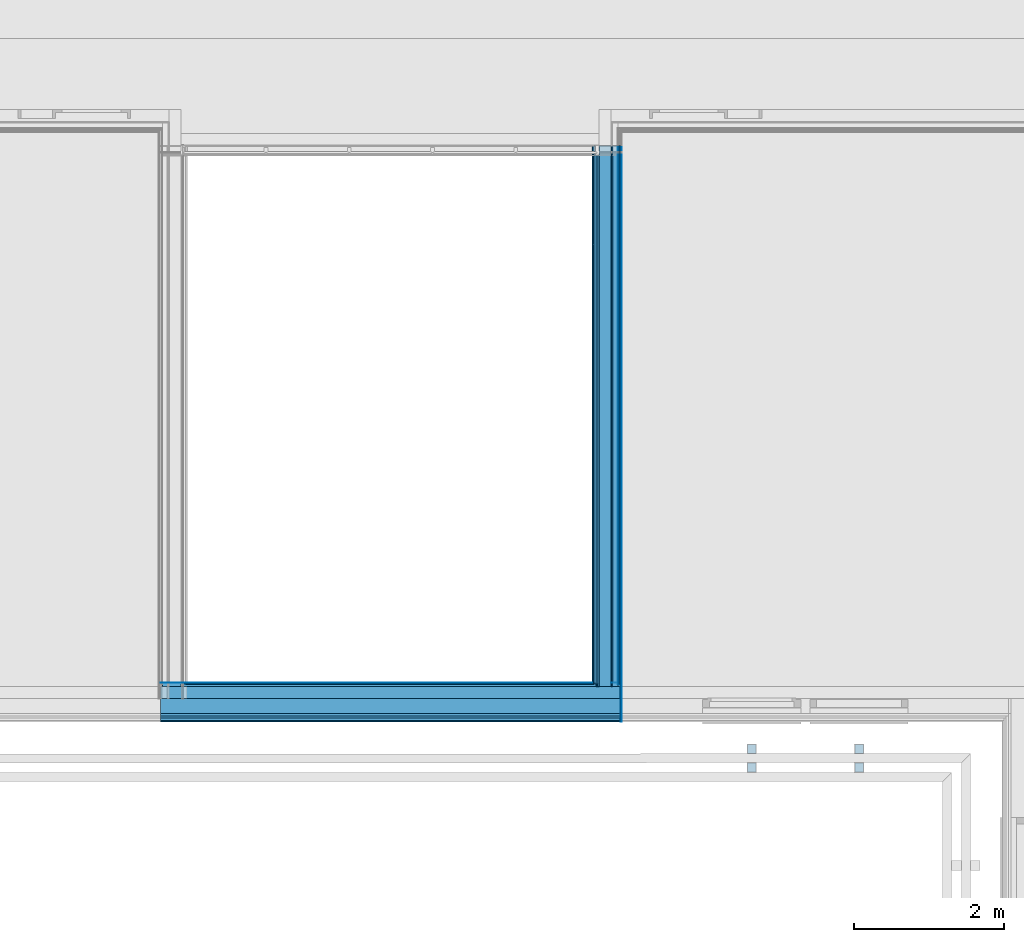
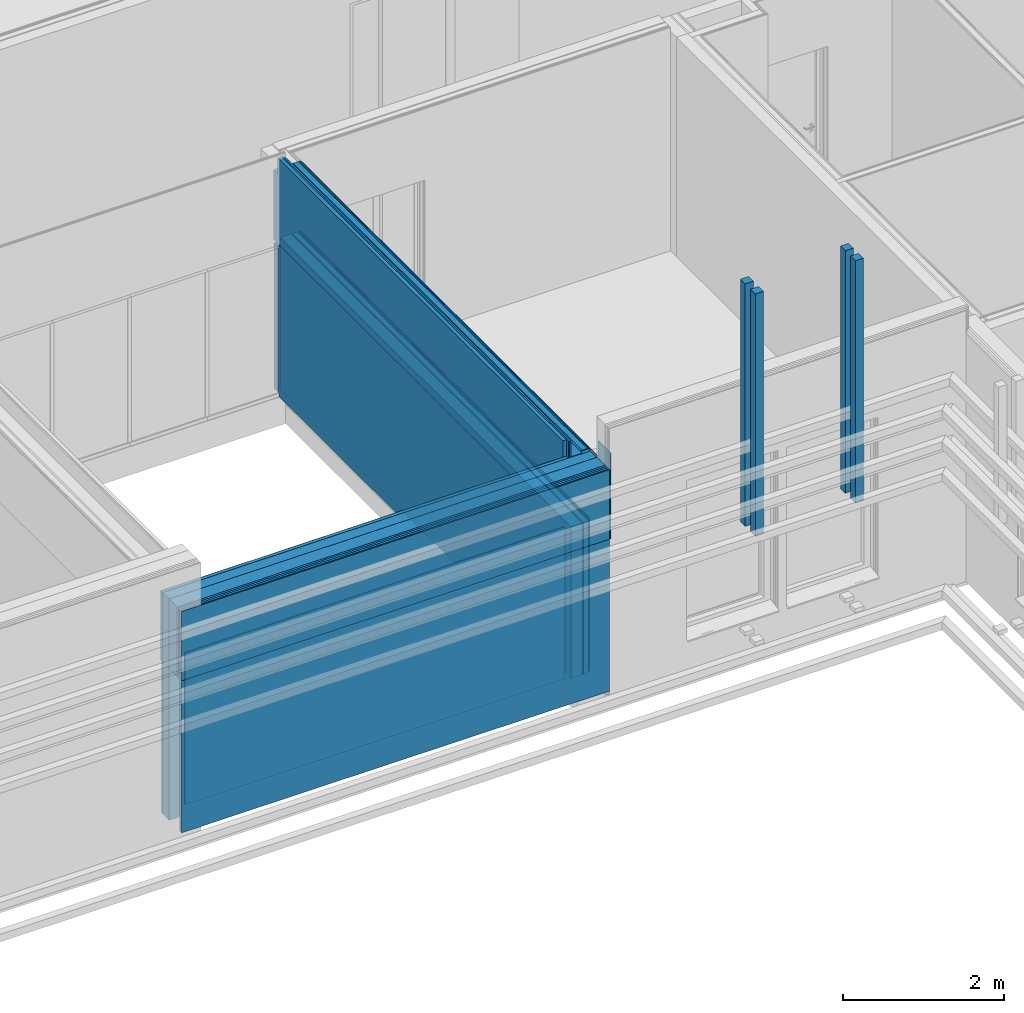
# One storey, part 84 of 139: 31 building element parts, 2 discrete accessories, 4 elements without a shape of their own.
"""IFC2X3 building model written with IfcOpenShell, lengths in millimetres."""

from ifc_helpers import new_model, entity, si_unit, converted_unit, derived_unit, money_unit, direction, frame, origin_with_axes, place, context, subcontext, project, spatial, faceted_brep, material, material_list, type_object, element, aggregate, save


model = new_model("IFC2X3")

# Units and contexts
model_context = context("Model", 3, precision=0.01, world=origin_with_axes(), true_north=direction((0.0, 1.0)))
body_context = subcontext(model_context, "Body", "Model", "MODEL_VIEW")
ifc_project = project(units=[si_unit("LENGTHUNIT", "METRE", prefix="MILLI"), si_unit("AREAUNIT", "SQUARE_METRE"), si_unit("VOLUMEUNIT", "CUBIC_METRE"), converted_unit("PLANEANGLEUNIT", "DEGREE", entity("IfcPlaneAngleMeasure", 0.0174532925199), si_unit("PLANEANGLEUNIT", "RADIAN"), dimensions=[0, 0, 0, 0, 0, 0, 0]), money_unit("EUR"), converted_unit("TIMEUNIT", "Year", entity("IfcTimeMeasure", 31556926.0), si_unit("TIMEUNIT", "SECOND"), dimensions=[0, 0, 1, 0, 0, 0, 0]), si_unit("MASSUNIT", "GRAM", prefix="KILO"), si_unit("THERMODYNAMICTEMPERATUREUNIT", "DEGREE_CELSIUS"), si_unit("LUMINOUSINTENSITYUNIT", "LUMEN"), si_unit("ENERGYUNIT", "JOULE", prefix="MEGA"), derived_unit("THERMALCONDUCTANCEUNIT", [(si_unit("POWERUNIT", "WATT"), 1), (si_unit("LENGTHUNIT", "METRE"), -1), (si_unit("THERMODYNAMICTEMPERATUREUNIT", "KELVIN"), -1)]), derived_unit("SPECIFICHEATCAPACITYUNIT", [(si_unit("ENERGYUNIT", "JOULE"), 1), (si_unit("MASSUNIT", "GRAM", prefix="KILO"), -1), (si_unit("THERMODYNAMICTEMPERATUREUNIT", "KELVIN"), -1)]), derived_unit("MASSDENSITYUNIT", [(si_unit("MASSUNIT", "GRAM", prefix="KILO"), 1), (si_unit("VOLUMEUNIT", "CUBIC_METRE"), -1)])], contexts=[model_context])

# Site, building, storey
site_placement = place(None, origin_with_axes())
site = spatial("IfcSite", under=ifc_project, at=site_placement, Name="Kolde pst 67a", CompositionType="ELEMENT")
building_placement = place(site_placement, origin_with_axes())
building = spatial("IfcBuilding", under=site, at=building_placement, Name="Riigigümnaasium", CompositionType="ELEMENT")
storey_placement = place(building_placement, frame((0.0, 0.0, 4600.0), z_axis=(0.0, 0.0, 1.0), x_axis=(1.0, 0.0, 0.0)))
storey = spatial("IfcBuildingStorey", under=building, at=storey_placement, Name="2. korrus", CompositionType="ELEMENT", Elevation=4600.0)

# Discrete accessories
ifc_material_1 = material(Name="_VÄLISVIIMISTLUS - sõrmjätkatud puitprussid 120x115mm, liitekohad vähemärgatavad, Platowood sõrmjätkatud kuusk või samaväärne; eeltöödeldud tuletõkkevõõbaga, tuletundlikkus B-s1, d0, Woodsafe Exterior WFX™ või samaväärne; kinnitused vastavalt EK osale")
ifc_material_list = material_list([ifc_material_1, ifc_material_1])
discrete_accessory_type = type_object("IfcDiscreteAccessoryType", Name="1+paiksekaitse 3 370 x 115")
for number, where, z_axis, x_axis in (
    (1, (20444.9643617, 46713.6768307, 2150.0), (0.0, 0.0, 1.0), (0.0, 1.0, 0.0)),
    (2, (21876.9643617, 46713.6768307, 2150.0), (0.0, 0.0, 1.0), (0.0, 1.0, 0.0)),
):
    element("IfcDiscreteAccessory", number, at=place(storey_placement, frame(where, z_axis=z_axis, x_axis=x_axis)), inside=storey, type_object=discrete_accessory_type, material=ifc_material_list, Name="Päikesevarjestus", context=body_context, shape_type="Brep", body=[
        faceted_brep([(467.0, 117.5, 0.0), (347.0, 117.5, 0.0), (347.0, 117.5, 3670.0), (467.0, 117.5, 3670.0), (467.0, 2.5, 0.0), (347.0, 2.5, 0.0), (347.0, 2.5, 3670.0), (467.0, 2.5, 3670.0)], [[[0, 1, 2, 3]], [[0, 4, 5, 1]], [[1, 5, 6, 2]], [[3, 2, 6, 7]], [[4, 0, 3, 7]], [[5, 4, 7, 6]]]),
        faceted_brep([(717.0, 117.5, 0.0), (597.0, 117.5, 0.0), (597.0, 117.5, 3670.0), (717.0, 117.5, 3670.0), (717.0, 2.5, 0.0), (597.0, 2.5, 0.0), (597.0, 2.5, 3670.0), (717.0, 2.5, 3670.0)], [[[0, 1, 2, 3]], [[0, 4, 5, 1]], [[1, 5, 6, 2]], [[3, 2, 6, 7]], [[4, 0, 3, 7]], [[5, 4, 7, 6]]]),
    ])

# Wall, building element parts
wall_type_1 = type_object("IfcWallType", Name="VS-CLT-16/9_18vineer+karkass 32+CLT160+soojust 200   522", PredefinedType="NOTDEFINED")
wall_1_placement = place(storey_placement, frame((12504.9974942, 48039.9808308, 0.0), z_axis=(0.0, 0.0, 1.0), x_axis=(1.0, 0.0, 0.0)))
wall_1 = element("IfcWall", 3, at=wall_1_placement, inside=storey, type_object=wall_type_1, Name="Välissein")
ifc_material_2 = material(Name="_PLAATMATERJAL - niiskuskindel vineerplaat, kvaliteediklass BB")
building_element_part_1_placement = place(wall_1_placement, origin_with_axes())
building_element_part_1 = element("IfcBuildingElementPart", 4, at=building_element_part_1_placement, material=ifc_material_2, Name="_PLAATMATERJAL - niiskuskindel vineerplaat, kvaliteediklass BB", context=body_context, shape_type="Brep", body=[
    faceted_brep([(5775.00604999, 192.0, 0.0), (335.0, 192.0, 0.0), (335.0, 210.0, 0.0), (5775.00604999, 210.0, 0.0), (5775.00604999, 192.0, 2300.0), (335.0, 192.0, 2300.0), (335.0, 210.0, 2300.0), (5775.00604999, 210.0, 2300.0)], [[[0, 1, 2, 3]], [[4, 5, 1, 0]], [[2, 1, 5, 6]], [[3, 2, 6, 7]], [[3, 7, 4, 0]], [[7, 6, 5, 4]]]),
])
ifc_material_3 = material(Name="_KARKASS - puitroov 32x32mm, s. 600mm")
building_element_part_2_placement = place(wall_1_placement, origin_with_axes())
building_element_part_2 = element("IfcBuildingElementPart", 5, at=building_element_part_2_placement, material=ifc_material_3, Name="_KARKASS - puitroov 32x32mm, s. 600mm", context=body_context, shape_type="Brep", body=[
    faceted_brep([(6120.00604999, 192.0, 0.0), (6120.00604999, 160.0, 0.0), (6095.00604999, 160.0, 0.0), (6095.00604999, 192.0, 0.0), (6120.00604999, 192.0, 2300.0), (6120.00604999, 160.0, 2300.0), (6095.00604999, 160.0, 2300.0), (6095.00604999, 192.0, 2300.0)], [[[0, 1, 2, 3]], [[0, 4, 5, 1]], [[1, 5, 6, 2]], [[3, 2, 6, 7]], [[4, 0, 3, 7]], [[5, 4, 7, 6]]]),
    faceted_brep([(5845.00604999, 160.0, 0.0), (275.0, 160.0, 0.0), (275.0, 192.0, 0.0), (5845.00604999, 192.0, 0.0), (5845.00604999, 160.0, 2300.0), (275.0, 160.0, 2300.0), (275.0, 192.0, 2300.0), (5845.00604999, 192.0, 2300.0)], [[[0, 1, 2, 3]], [[4, 5, 1, 0]], [[2, 1, 5, 6]], [[3, 2, 6, 7]], [[3, 7, 4, 0]], [[7, 6, 5, 4]]]),
    faceted_brep([(25.0, 160.0, 0.0), (0.0, 160.0, 0.0), (0.0, 192.0, 0.0), (25.0, 192.0, 0.0), (25.0, 160.0, 2300.0), (0.0, 160.0, 2300.0), (0.0, 192.0, 2300.0), (25.0, 192.0, 2300.0)], [[[0, 1, 2, 3]], [[4, 5, 1, 0]], [[2, 1, 5, 6]], [[3, 2, 6, 7]], [[3, 7, 4, 0]], [[7, 6, 5, 4]]]),
])
ifc_material_4 = material(Name="_KANDETARIND - CLT ristkihtliimpuit vastavalt EK osale, CLT paigaldusvuugid teibitakse ROTHOBLAAS teibiga")
building_element_part_3_placement = place(wall_1_placement, origin_with_axes())
building_element_part_3 = element("IfcBuildingElementPart", 6, at=building_element_part_3_placement, material=ifc_material_4, Name="_KANDETARIND - CLT ristkihtliimpuit vastavalt EK osale, CLT paigaldusvuugid teibitakse ROTHOBLAAS teibiga", context=body_context, shape_type="Brep", body=[
    faceted_brep([(6120.00604999, 160.0, 0.0), (6120.00604999, 0.0, 0.0), (0.0, 0.0, 0.0), (0.0, 160.0, 0.0), (6120.00604999, 160.0, 2300.0), (6120.00604999, 0.0, 2300.0), (0.0, 0.0, 2300.0), (0.0, 160.0, 2300.0)], [[[0, 1, 2, 3]], [[0, 4, 5, 1]], [[1, 5, 6, 2]], [[3, 2, 6, 7]], [[4, 0, 3, 7]], [[5, 4, 7, 6]]]),
])
ifc_material_5 = material(Name="_KARKASS - puitroov 32x50mm horisontaalne, immutatud Driconi tulekaitsevahendiga või samaväärne, samm 600mm")
building_element_part_4_placement = place(wall_1_placement, origin_with_axes())
building_element_part_4 = element("IfcBuildingElementPart", 7, at=building_element_part_4_placement, material=ifc_material_5, Name="_KARKASS - puitroov 32x50mm horisontaalne, immutatud Driconi tulekaitsevahendiga või samaväärne, samm 600mm", context=body_context, shape_type="Brep", body=[
    faceted_brep([(6120.00604999, -262.0, 0.0), (6120.00604999, -294.0, 0.0), (0.0, -294.0, 0.0), (0.0, -262.0, 0.0), (6120.00604999, -262.0, 2300.0), (6120.00604999, -294.0, 2300.0), (0.0, -294.0, 2300.0), (0.0, -262.0, 2300.0)], [[[0, 1, 2, 3]], [[0, 4, 5, 1]], [[1, 5, 6, 2]], [[3, 2, 6, 7]], [[4, 0, 3, 7]], [[5, 4, 7, 6]]]),
])
ifc_material_6 = material(Name="_VÄLISVIIMISTLUS - vertikaalne voodrilaud, Platowood P01 profiil 18x140mm, kuusk; eeltöödeldud tuletõkkega mõlemad küljed, B-s1, d0, Woodsafe Exterior WFX™ või samaväärne")
building_element_part_5_placement = place(wall_1_placement, origin_with_axes())
building_element_part_5 = element("IfcBuildingElementPart", 8, at=building_element_part_5_placement, material=ifc_material_6, Name="_VÄLISVIIMISTLUS - vertikaalne voodrilaud, Platowood P01 profiil 18x140mm, kuusk; eeltöödeldud tuletõkkega mõlemad küljed, B-s1, d0, Woodsafe Exterior WFX™ või samaväärne", context=body_context, shape_type="Brep", body=[
    faceted_brep([(6120.00604999, -294.0, 0.0), (6120.00604999, -312.0, 0.0), (0.0, -312.0, 0.0), (0.0, -294.0, 0.0), (6120.00604999, -294.0, 2300.0), (6120.00604999, -312.0, 2300.0), (0.0, -312.0, 2300.0), (0.0, -294.0, 2300.0)], [[[0, 1, 2, 3]], [[0, 4, 5, 1]], [[1, 5, 6, 2]], [[3, 2, 6, 7]], [[4, 0, 3, 7]], [[5, 4, 7, 6]]]),
])
aggregate(wall_1, [building_element_part_1, building_element_part_2, building_element_part_3, building_element_part_4, building_element_part_5])

wall_type_2 = type_object("IfcWallType", Name="VS-CLT-16/8_ak. plaat+CLT160+soojust 200  524", PredefinedType="NOTDEFINED")
wall_2_placement = place(storey_placement, frame((12504.9974942, 48039.9808308, 2300.0), z_axis=(0.0, 0.0, 1.0), x_axis=(1.0, 0.0, 0.0)))
wall_2 = element("IfcWall", 9, at=wall_2_placement, inside=storey, type_object=wall_type_2, Name="Välissein")
ifc_material_7 = material(Name="_VIIMISTLUSKIHT - must akustiline fliis vastavalt SA osale")
building_element_part_6_placement = place(wall_2_placement, origin_with_axes())
building_element_part_6 = element("IfcBuildingElementPart", 10, at=building_element_part_6_placement, material=ifc_material_7, Name="_VIIMISTLUSKIHT - must akustiline fliis vastavalt SA osale", context=body_context, shape_type="Brep", body=[
    faceted_brep([(6120.00604999, 212.0, 0.0), (6120.00604999, 210.0, 0.0), (6005.00604999, 210.0, 0.0), (6005.00604999, 212.0, 0.0), (6120.00604999, 212.0, 1050.0), (6120.00604999, 210.0, 1050.0), (6005.00604999, 210.0, 1050.0), (6005.00604999, 212.0, 1050.0)], [[[0, 1, 2, 3]], [[0, 4, 5, 1]], [[1, 5, 6, 2]], [[3, 2, 6, 7]], [[4, 0, 3, 7]], [[5, 4, 7, 6]]]),
    faceted_brep([(5755.00604999, 210.0, 0.0), (0.0, 210.0, 0.0), (0.0, 212.0, 0.0), (5755.00604999, 212.0, 0.0), (5755.00604999, 210.0, 1050.0), (0.0, 210.0, 1050.0), (0.0, 212.0, 1050.0), (5755.00604999, 212.0, 1050.0)], [[[0, 1, 2, 3]], [[4, 5, 1, 0]], [[2, 1, 5, 6]], [[3, 2, 6, 7]], [[3, 7, 4, 0]], [[7, 6, 5, 4]]]),
])
ifc_material_8 = material(Name="_SOOJUSTUS - akustiline vill Ecophon Industry must TAL PE 50mm või samaväärne")
building_element_part_7_placement = place(wall_2_placement, origin_with_axes())
building_element_part_7 = element("IfcBuildingElementPart", 11, at=building_element_part_7_placement, material=ifc_material_8, Name="_SOOJUSTUS - akustiline vill Ecophon Industry must TAL PE 50mm või samaväärne", context=body_context, shape_type="Brep", body=[
    faceted_brep([(6120.00604999, 210.0, 0.0), (6120.00604999, 160.0, 0.0), (6005.00604999, 160.0, 0.0), (6005.00604999, 210.0, 0.0), (6120.00604999, 210.0, 1050.0), (6120.00604999, 160.0, 1050.0), (6005.00604999, 160.0, 1050.0), (6005.00604999, 210.0, 1050.0)], [[[0, 1, 2, 3]], [[0, 4, 5, 1]], [[1, 5, 6, 2]], [[3, 2, 6, 7]], [[4, 0, 3, 7]], [[5, 4, 7, 6]]]),
    faceted_brep([(5805.00604999, 160.0, 0.0), (0.0, 160.0, 0.0), (0.0, 210.0, 0.0), (5805.00604999, 210.0, 0.0), (5805.00604999, 160.0, 1050.0), (0.0, 160.0, 1050.0), (0.0, 210.0, 1050.0), (5805.00604999, 210.0, 1050.0)], [[[0, 1, 2, 3]], [[4, 5, 1, 0]], [[2, 1, 5, 6]], [[3, 2, 6, 7]], [[3, 7, 4, 0]], [[7, 6, 5, 4]]]),
])
building_element_part_8_placement = place(wall_2_placement, origin_with_axes())
building_element_part_8 = element("IfcBuildingElementPart", 12, at=building_element_part_8_placement, material=ifc_material_4, Name="_KANDETARIND - CLT ristkihtliimpuit vastavalt EK osale, CLT paigaldusvuugid teibitakse ROTHOBLAAS teibiga", context=body_context, shape_type="Brep", body=[
    faceted_brep([(6120.00604999, 160.0, 0.0), (6120.00604999, 0.0, 0.0), (0.0, 0.0, 0.0), (0.0, 160.0, 0.0), (6120.00604999, 160.0, 1050.0), (6120.00604999, 0.0, 1050.0), (0.0, 0.0, 1050.0), (0.0, 160.0, 1050.0)], [[[0, 1, 2, 3]], [[0, 4, 5, 1]], [[1, 5, 6, 2]], [[3, 2, 6, 7]], [[4, 0, 3, 7]], [[5, 4, 7, 6]]]),
])
ifc_material_9 = material(Name="_SOOJUSTUS - mineraalvill, λD<0,032 W/(mK), kuumtsingitud lehtteras termoroovidega, S350GD+Zn275 vastavalt EN10346, ISOVER EXTREME 32 200mm või samaväärne")
building_element_part_9_placement = place(wall_2_placement, origin_with_axes())
building_element_part_9 = element("IfcBuildingElementPart", 13, at=building_element_part_9_placement, material=ifc_material_9, Name="_SOOJUSTUS - mineraalvill, λD<0,032 W/(mK), kuumtsingitud lehtteras termoroovidega, S350GD+Zn275 vastavalt EN10346, ISOVER EXTREME 32 200mm või samaväärne", context=body_context, shape_type="Brep", body=[
    faceted_brep([(6120.00604999, 0.0, 0.0), (6120.00604999, -200.0, 0.0), (0.0, -200.0, 0.0), (0.0, 0.0, 0.0), (6120.00604999, 0.0, 1050.0), (6120.00604999, -200.0, 1050.0), (0.0, -200.0, 1050.0), (0.0, 0.0, 1050.0)], [[[0, 1, 2, 3]], [[0, 4, 5, 1]], [[1, 5, 6, 2]], [[3, 2, 6, 7]], [[4, 0, 3, 7]], [[5, 4, 7, 6]]]),
])
ifc_material_10 = material(Name="_TUULETÕKE - tuuletõkkeplaat, soojuserijuhtivus λD<0,031 W/(mK), ISOVER RKL FACADE või samaväärne, liitekohad katta tihendusteibiga ISOVER FacadeTape või samaväärne")
building_element_part_10_placement = place(wall_2_placement, origin_with_axes())
building_element_part_10 = element("IfcBuildingElementPart", 14, at=building_element_part_10_placement, material=ifc_material_10, Name="_TUULETÕKE - tuuletõkkeplaat, soojuserijuhtivus λD<0,031 W/(mK), ISOVER RKL FACADE või samaväärne, liitekohad katta tihendusteibiga ISOVER FacadeTape või samaväärne", context=body_context, shape_type="Brep", body=[
    faceted_brep([(6120.00604999, -200.0, 0.0), (6120.00604999, -230.0, 0.0), (0.0, -230.0, 0.0), (0.0, -200.0, 0.0), (6120.00604999, -200.0, 1050.0), (6120.00604999, -230.0, 1050.0), (0.0, -230.0, 1050.0), (0.0, -200.0, 1050.0)], [[[0, 1, 2, 3]], [[0, 4, 5, 1]], [[1, 5, 6, 2]], [[3, 2, 6, 7]], [[4, 0, 3, 7]], [[5, 4, 7, 6]]]),
])
ifc_material_11 = material(Name="_KARKASS - puitroov 32x50mm vertikaalne, immutatud Driconi tulekaitsevahendiga või samaväärne, samm 600mm")
building_element_part_11_placement = place(wall_2_placement, origin_with_axes())
building_element_part_11 = element("IfcBuildingElementPart", 15, at=building_element_part_11_placement, material=ifc_material_11, Name="_KARKASS - puitroov 32x50mm vertikaalne, immutatud Driconi tulekaitsevahendiga või samaväärne, samm 600mm", context=body_context, shape_type="Brep", body=[
    faceted_brep([(6120.00604999, -230.0, 0.0), (6120.00604999, -262.0, 0.0), (0.0, -262.0, 0.0), (0.0, -230.0, 0.0), (6120.00604999, -230.0, 1050.0), (6120.00604999, -262.0, 1050.0), (0.0, -262.0, 1050.0), (0.0, -230.0, 1050.0)], [[[0, 1, 2, 3]], [[0, 4, 5, 1]], [[1, 5, 6, 2]], [[3, 2, 6, 7]], [[4, 0, 3, 7]], [[5, 4, 7, 6]]]),
])
building_element_part_12_placement = place(wall_2_placement, origin_with_axes())
building_element_part_12 = element("IfcBuildingElementPart", 16, at=building_element_part_12_placement, material=ifc_material_5, Name="_KARKASS - puitroov 32x50mm horisontaalne, immutatud Driconi tulekaitsevahendiga või samaväärne, samm 600mm", context=body_context, shape_type="Brep", body=[
    faceted_brep([(6120.00604999, -262.0, 0.0), (6120.00604999, -294.0, 0.0), (0.0, -294.0, 0.0), (0.0, -262.0, 0.0), (6120.00604999, -262.0, 1050.0), (6120.00604999, -294.0, 1050.0), (0.0, -294.0, 1050.0), (0.0, -262.0, 1050.0)], [[[0, 1, 2, 3]], [[0, 4, 5, 1]], [[1, 5, 6, 2]], [[3, 2, 6, 7]], [[4, 0, 3, 7]], [[5, 4, 7, 6]]]),
])
building_element_part_13_placement = place(wall_2_placement, origin_with_axes())
building_element_part_13 = element("IfcBuildingElementPart", 17, at=building_element_part_13_placement, material=ifc_material_6, Name="_VÄLISVIIMISTLUS - vertikaalne voodrilaud, Platowood P01 profiil 18x140mm, kuusk; eeltöödeldud tuletõkkega mõlemad küljed, B-s1, d0, Woodsafe Exterior WFX™ või samaväärne", context=body_context, shape_type="Brep", body=[
    faceted_brep([(6120.00604999, -294.0, 0.0), (6120.00604999, -312.0, 0.0), (0.0, -312.0, 0.0), (0.0, -294.0, 0.0), (6120.00604999, -294.0, 1050.0), (6120.00604999, -312.0, 1050.0), (0.0, -312.0, 1050.0), (0.0, -294.0, 1050.0)], [[[0, 1, 2, 3]], [[0, 4, 5, 1]], [[1, 5, 6, 2]], [[3, 2, 6, 7]], [[4, 0, 3, 7]], [[5, 4, 7, 6]]]),
])
aggregate(wall_2, [building_element_part_6, building_element_part_7, building_element_part_8, building_element_part_9, building_element_part_10, building_element_part_11, building_element_part_12, building_element_part_13])

wall_type_3 = type_object("IfcWallType", Name="SS-CLT-16/12_vineer18+karkass70+CLT+vill75+krohv 388", PredefinedType="NOTDEFINED")
wall_3_placement = place(storey_placement, frame((18262.0035442, 55415.0082761, 0.0), z_axis=(0.0, 0.0, 1.0), x_axis=(0.0, -1.0, 0.0)))
wall_3 = element("IfcWall", 18, at=wall_3_placement, inside=storey, type_object=wall_type_3, Name="Sisesein")
ifc_material_12 = material(Name="_VIIMISTLUSKIHT - viimistlus vastavalt SA osale")
building_element_part_14_placement = place(wall_3_placement, origin_with_axes())
building_element_part_14 = element("IfcBuildingElementPart", 19, at=building_element_part_14_placement, material=ifc_material_12, Name="_VIIMISTLUSKIHT - viimistlus vastavalt SA osale", context=body_context, shape_type="Brep", body=[
    faceted_brep([(7165.02744526, 378.0, 0.0), (0.0, 378.0, 0.0), (0.0, 388.0, 0.0), (7165.02744526, 388.0, 0.0), (7165.02744526, 378.0, 2300.0), (0.0, 378.0, 2300.0), (0.0, 388.0, 2300.0), (7165.02744526, 388.0, 2300.0)], [[[0, 1, 2, 3]], [[4, 5, 1, 0]], [[2, 1, 5, 6]], [[3, 2, 6, 7]], [[3, 7, 4, 0]], [[7, 6, 5, 4]]]),
])
ifc_material_13 = material(Name="_PLAATMATERJAL - tuletõkkekipsplaat, Knauf Red GKF või samaväärne")
building_element_part_15_placement = place(wall_3_placement, origin_with_axes())
building_element_part_15 = element("IfcBuildingElementPart", 20, at=building_element_part_15_placement, material=ifc_material_13, Name="_PLAATMATERJAL - tuletõkkekipsplaat, Knauf Red GKF või samaväärne", context=body_context, shape_type="Brep", body=[
    faceted_brep([(7183.02744526, 363.0, 0.0), (0.0, 363.0, 0.0), (0.0, 378.0, 0.0), (7183.02744526, 378.0, 0.0), (7183.02744526, 363.0, 2300.0), (0.0, 363.0, 2300.0), (0.0, 378.0, 2300.0), (7183.02744526, 378.0, 2300.0)], [[[0, 1, 2, 3]], [[4, 5, 1, 0]], [[2, 1, 5, 6]], [[3, 2, 6, 7]], [[3, 7, 4, 0]], [[7, 6, 5, 4]]]),
])
building_element_part_16_placement = place(wall_3_placement, origin_with_axes())
building_element_part_16 = element("IfcBuildingElementPart", 21, at=building_element_part_16_placement, material=ifc_material_13, Name="_PLAATMATERJAL - tuletõkkekipsplaat, Knauf Red GKF või samaväärne", context=body_context, shape_type="Brep", body=[
    faceted_brep([(7183.02744526, 348.0, 0.0), (0.0, 348.0, 0.0), (0.0, 363.0, 0.0), (7183.02744526, 363.0, 0.0), (7183.02744526, 348.0, 2300.0), (0.0, 348.0, 2300.0), (0.0, 363.0, 2300.0), (7183.02744526, 363.0, 2300.0)], [[[0, 1, 2, 3]], [[4, 5, 1, 0]], [[2, 1, 5, 6]], [[3, 2, 6, 7]], [[3, 7, 4, 0]], [[7, 6, 5, 4]]]),
])
ifc_material_14 = material(Name="_PLAATMATERJAL - OSB3 plaat")
building_element_part_17_placement = place(wall_3_placement, origin_with_axes())
building_element_part_17 = element("IfcBuildingElementPart", 22, at=building_element_part_17_placement, material=ifc_material_14, Name="_PLAATMATERJAL - OSB3 plaat", context=body_context, shape_type="Brep", body=[
    faceted_brep([(7183.02744526, 338.0, 0.0), (0.0, 338.0, 0.0), (0.0, 348.0, 0.0), (7183.02744526, 348.0, 0.0), (7183.02744526, 338.0, 2300.0), (0.0, 338.0, 2300.0), (0.0, 348.0, 2300.0), (7183.02744526, 348.0, 2300.0)], [[[0, 1, 2, 3]], [[4, 5, 1, 0]], [[2, 1, 5, 6]], [[3, 2, 6, 7]], [[3, 7, 4, 0]], [[7, 6, 5, 4]]]),
])
ifc_material_15 = material(Name="_KARKASS - metallkarkass CW 75/50/06 ja UW 75/40/06, samm 600, vahel mineraalvill, helineeldetegur αw = 1.0,  ISOVER ACOUSTIC 75mm või samaväärne")
building_element_part_18_placement = place(wall_3_placement, origin_with_axes())
building_element_part_18 = element("IfcBuildingElementPart", 23, at=building_element_part_18_placement, material=ifc_material_15, Name="_KARKASS - metallkarkass CW 75/50/06 ja UW 75/40/06, samm 600, vahel mineraalvill, helineeldetegur αw = 1.0,  ISOVER ACOUSTIC 75mm või samaväärne", context=body_context, shape_type="Brep", body=[
    faceted_brep([(7215.02744526, 263.0, 0.0), (0.0, 263.0, 0.0), (0.0, 338.0, 0.0), (7215.02744526, 338.0, 0.0), (7215.02744526, 263.0, 2300.0), (0.0, 263.0, 2300.0), (0.0, 338.0, 2300.0), (7215.02744526, 338.0, 2300.0)], [[[0, 1, 2, 3]], [[4, 5, 1, 0]], [[2, 1, 5, 6]], [[3, 2, 6, 7]], [[3, 7, 4, 0]], [[7, 6, 5, 4]]]),
])
ifc_material_16 = material(Name="_ÕHKVAHE")
building_element_part_19_placement = place(wall_3_placement, origin_with_axes())
building_element_part_19 = element("IfcBuildingElementPart", 24, at=building_element_part_19_placement, material=ifc_material_16, Name="_ÕHKVAHE", context=body_context, shape_type="Brep", body=[
    faceted_brep([(7215.02744526, 248.0, 0.0), (0.0, 248.0, 0.0), (0.0, 263.0, 0.0), (7215.02744526, 263.0, 0.0), (7215.02744526, 248.0, 2300.0), (0.0, 248.0, 2300.0), (0.0, 263.0, 2300.0), (7215.02744526, 263.0, 2300.0)], [[[0, 1, 2, 3]], [[4, 5, 1, 0]], [[2, 1, 5, 6]], [[3, 2, 6, 7]], [[3, 7, 4, 0]], [[7, 6, 5, 4]]]),
])
building_element_part_20_placement = place(wall_3_placement, origin_with_axes())
building_element_part_20 = element("IfcBuildingElementPart", 25, at=building_element_part_20_placement, material=ifc_material_4, Name="_KANDETARIND - CLT ristkihtliimpuit vastavalt EK osale, CLT paigaldusvuugid teibitakse ROTHOBLAAS teibiga", context=body_context, shape_type="Brep", body=[
    faceted_brep([(0.0, 248.0, 0.0), (7215.02744526, 248.0, 0.0), (7215.02744526, 88.0, 0.0), (0.0, 88.0, 0.0), (0.0, 248.0, 2300.0), (7215.02744526, 248.0, 2300.0), (7215.02744526, 88.0, 2300.0), (0.0, 88.0, 2300.0)], [[[0, 1, 2, 3]], [[4, 5, 1, 0]], [[6, 2, 1, 5]], [[3, 2, 6, 7]], [[7, 4, 0, 3]], [[7, 6, 5, 4]]]),
])
ifc_material_17 = material(Name="_KARKASS - puitroov 70x50mm, s. 600mm")
building_element_part_21_placement = place(wall_3_placement, origin_with_axes())
building_element_part_21 = element("IfcBuildingElementPart", 26, at=building_element_part_21_placement, material=ifc_material_17, Name="_KARKASS - puitroov 70x50mm, s. 600mm", context=body_context, shape_type="Brep", body=[
    faceted_brep([(110.00063621, 37.9998695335, 50.0), (110.00063621, 37.9998695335, 2250.00008047), (130.000636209, 38.0001142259, 2250.00008047), (130.000636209, 38.000114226, 50.0), (110.000880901, 18.0, 2250.00008047), (110.000880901, 18.0, 50.0), (130.000880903, 18.0, 2250.00008047), (130.000880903, 18.0, 2300.00008047), (130.000024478, 88.0001142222, 2300.00008047), (130.000024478, 88.0001142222, 0.0), (130.000880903, 18.0, 0.0), (130.000880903, 18.0, 50.0), (7183.02744526, 18.0, 0.0), (7183.02744526, 18.0, 2300.0), (7183.02744526, 88.0, 2300.0), (7183.02744526, 88.0, 0.0)], [[[0, 1, 2, 3]], [[4, 1, 0, 5]], [[1, 4, 6, 2]], [[3, 2, 6, 7, 8, 9, 10, 11]], [[5, 0, 3, 11]], [[4, 5, 11, 10, 12, 13, 7, 6]], [[14, 8, 7, 13]], [[14, 15, 9, 8]], [[9, 15, 12, 10]], [[13, 12, 15, 14]]]),
    faceted_brep([(90.0008808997, 18.0, 2250.00008047), (90.0006362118, 37.999624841, 2250.00008047), (0.000636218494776, 37.9985237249, 2250.00008047), (0.000880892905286, 18.0000000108, 2250.00008047), (90.0006362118, 37.999624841, 50.0), (90.0008808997, 18.0, 50.0), (0.000636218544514, 37.9985237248, 50.0), (0.000880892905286, 18.0000000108, 50.0)], [[[0, 1, 2, 3]], [[4, 1, 0, 5]], [[1, 4, 6, 2]], [[7, 3, 2, 6]], [[5, 0, 3, 7]], [[4, 5, 7, 6]]]),
])
building_element_part_22_placement = place(wall_3_placement, origin_with_axes())
building_element_part_22 = element("IfcBuildingElementPart", 27, at=building_element_part_22_placement, material=ifc_material_2, Name="_PLAATMATERJAL - niiskuskindel vineerplaat, kvaliteediklass BB", context=body_context, shape_type="Brep", body=[
    faceted_brep([(110.000880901, 18.0, 50.0), (110.000880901, 18.0, 2250.00008047), (130.000880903, 18.0, 2250.00008047), (130.000880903, 18.0, 2300.00008047), (7165.02744526, 18.0, 2300.0), (7165.02744526, 18.0, 0.0), (130.000880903, 18.0, 0.0), (130.000880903, 18.0, 50.0), (110.001101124, 0.0, 2250.00008047), (110.001101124, 0.0, 50.0), (130.001101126, 0.0, 2250.00008047), (130.001101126, 0.0, 2300.00008047), (7165.02744526, 0.0, 2300.0), (7165.02744526, 0.0, 0.0), (130.001101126, 0.0, 0.0), (130.001101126, 0.0, 50.0)], [[[0, 1, 2, 3, 4, 5, 6, 7]], [[8, 1, 0, 9]], [[1, 8, 10, 2]], [[10, 11, 3, 2]], [[4, 3, 11, 12]], [[13, 5, 4, 12]], [[5, 13, 14, 6]], [[14, 15, 7, 6]], [[9, 0, 7, 15]], [[8, 9, 15, 14, 13, 12, 11, 10]]]),
    faceted_brep([(90.001101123, 0.0, 2250.00008047), (90.0008808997, 18.0, 2250.00008047), (0.000880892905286, 18.0000000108, 2250.00008047), (0.00110111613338, 1.347189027e-08, 2250.00008047), (90.0008808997, 18.0, 50.0), (90.001101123, 0.0, 50.0), (0.000880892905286, 18.0000000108, 50.0), (0.00110111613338, 1.347189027e-08, 50.0)], [[[0, 1, 2, 3]], [[4, 1, 0, 5]], [[1, 4, 6, 2]], [[7, 3, 2, 6]], [[5, 0, 3, 7]], [[4, 5, 7, 6]]]),
])
aggregate(wall_3, [building_element_part_14, building_element_part_15, building_element_part_16, building_element_part_17, building_element_part_18, building_element_part_19, building_element_part_20, building_element_part_21, building_element_part_22])

wall_type_4 = type_object("IfcWallType", Name="SS-CLT-16/13_ak.plaat50+vineer18+distants22+CLT+vill75+krohv 390", PredefinedType="NOTDEFINED")
wall_4_placement = place(storey_placement, frame((18260.0035442, 55415.0082516, 2300.0), z_axis=(0.0, 0.0, 1.0), x_axis=(0.0, -1.0, 0.0)))
wall_4 = element("IfcWall", 28, at=wall_4_placement, inside=storey, type_object=wall_type_4, Name="Sisesein")
building_element_part_23_placement = place(wall_4_placement, origin_with_axes())
building_element_part_23 = element("IfcBuildingElementPart", 29, at=building_element_part_23_placement, material=ifc_material_12, Name="_VIIMISTLUSKIHT - viimistlus vastavalt SA osale", context=body_context, shape_type="Brep", body=[
    faceted_brep([(0.0, 380.0, 1059.0), (0.0, 390.0, 1059.0), (0.0, 390.0, 0.0), (0.0, 380.0, 0.0), (7375.02742079, 390.0, 1059.0), (7375.02742079, 380.0, 1059.0), (7375.02742079, 390.0, 1298.99999983), (7687.02742079, 390.0, 1298.99999982), (7687.02742079, 390.0, 0.0), (7687.02742079, 380.0, 0.0), (7687.02742079, 380.0, 1298.99999982), (7375.02742079, 380.0, 1298.99999983)], [[[0, 1, 2, 3]], [[4, 1, 0, 5]], [[4, 6, 7, 8, 2, 1]], [[3, 2, 8, 9]], [[5, 0, 3, 9, 10, 11]], [[11, 6, 4, 5]], [[6, 11, 10, 7]], [[8, 7, 10, 9]]]),
])
building_element_part_24_placement = place(wall_4_placement, origin_with_axes())
building_element_part_24 = element("IfcBuildingElementPart", 30, at=building_element_part_24_placement, material=ifc_material_13, Name="_PLAATMATERJAL - tuletõkkekipsplaat, Knauf Red GKF või samaväärne", context=body_context, shape_type="Brep", body=[
    faceted_brep([(0.0, 365.0, 1059.0), (0.0, 380.0, 1059.0), (0.0, 380.0, 0.0), (0.0, 365.0, 0.0), (7163.02742079, 380.0, 1059.0), (7163.02742079, 365.0, 1059.0), (7163.02742079, 380.0, 1050.0), (7687.02742079, 380.0, 1050.0), (7687.02742079, 380.0, 0.0), (7687.02742079, 365.0, 0.0), (7687.02742079, 365.0, 1050.0), (7163.02742079, 365.0, 1050.0)], [[[0, 1, 2, 3]], [[4, 1, 0, 5]], [[1, 4, 6, 7, 8, 2]], [[3, 2, 8, 9]], [[5, 0, 3, 9, 10, 11]], [[4, 5, 11, 6]], [[7, 6, 11, 10]], [[8, 7, 10, 9]]]),
])
building_element_part_25_placement = place(wall_4_placement, origin_with_axes())
building_element_part_25 = element("IfcBuildingElementPart", 31, at=building_element_part_25_placement, material=ifc_material_13, Name="_PLAATMATERJAL - tuletõkkekipsplaat, Knauf Red GKF või samaväärne", context=body_context, shape_type="Brep", body=[
    faceted_brep([(0.0, 350.0, 1059.0), (0.0, 365.0, 1059.0), (0.0, 365.0, 0.0), (0.0, 350.0, 0.0), (7163.02742079, 365.0, 1059.0), (7163.02742079, 350.0, 1059.0), (7163.02742079, 365.0, 1050.0), (7163.02742079, 365.0, 0.0), (7163.02742079, 350.0, 0.0)], [[[0, 1, 2, 3]], [[4, 1, 0, 5]], [[1, 4, 6, 7, 2]], [[2, 7, 8, 3]], [[5, 0, 3, 8]], [[4, 5, 8, 7, 6]]]),
])
building_element_part_26_placement = place(wall_4_placement, origin_with_axes())
building_element_part_26 = element("IfcBuildingElementPart", 32, at=building_element_part_26_placement, material=ifc_material_15, Name="_KARKASS - metallkarkass CW 75/50/06 ja UW 75/40/06, samm 600, vahel mineraalvill, helineeldetegur αw = 1.0,  ISOVER ACOUSTIC 75mm või samaväärne", context=body_context, shape_type="Brep", body=[
    faceted_brep([(0.0, 275.0, 1059.0), (0.0, 350.0, 1059.0), (0.0, 350.0, 0.0), (0.0, 275.0, 0.0), (7163.02742079, 350.0, 1059.0), (7163.02742079, 275.0, 1059.0), (7163.02742079, 350.0, 0.0), (7163.02742079, 275.0, 0.0)], [[[0, 1, 2, 3]], [[4, 1, 0, 5]], [[1, 4, 6, 2]], [[2, 6, 7, 3]], [[5, 0, 3, 7]], [[4, 5, 7, 6]]]),
])
building_element_part_27_placement = place(wall_4_placement, origin_with_axes())
building_element_part_27 = element("IfcBuildingElementPart", 33, at=building_element_part_27_placement, material=ifc_material_16, Name="_ÕHKVAHE", context=body_context, shape_type="Brep", body=[
    faceted_brep([(0.0, 250.0, 1059.0), (0.0, 275.0, 1059.0), (0.0, 275.0, 0.0), (0.0, 250.0, 0.0), (7163.02742079, 275.0, 1059.0), (7163.02742079, 250.0, 1059.0), (7163.02742079, 275.0, 0.0), (7163.02742079, 250.0, 0.0)], [[[0, 1, 2, 3]], [[4, 1, 0, 5]], [[1, 4, 6, 2]], [[2, 6, 7, 3]], [[5, 0, 3, 7]], [[4, 5, 7, 6]]]),
])
building_element_part_28_placement = place(wall_4_placement, origin_with_axes())
building_element_part_28 = element("IfcBuildingElementPart", 34, at=building_element_part_28_placement, material=ifc_material_4, Name="_KANDETARIND - CLT ristkihtliimpuit vastavalt EK osale, CLT paigaldusvuugid teibitakse ROTHOBLAAS teibiga", context=body_context, shape_type="Brep", body=[
    faceted_brep([(0.0, 90.0, 1059.0), (0.0, 250.0, 1059.0), (0.0, 250.0, 0.0), (0.0, 90.0, 0.0), (7215.02742079, 250.0, 1059.0), (97.0365540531, 90.0, 1059.0), (7215.02742079, 90.0, 1059.0), (7215.02742079, 250.0, 0.0), (7215.02742079, 90.0, 0.0)], [[[0, 1, 2, 3]], [[4, 1, 0, 5, 6]], [[1, 4, 7, 2]], [[2, 7, 8, 3]], [[5, 0, 3, 8, 6]], [[4, 6, 8, 7]]]),
])
ifc_material_18 = material(Name="_KARKASS - distantsliist 22x50mm, s. 600mm")
building_element_part_29_placement = place(wall_4_placement, origin_with_axes())
building_element_part_29 = element("IfcBuildingElementPart", 35, at=building_element_part_29_placement, material=ifc_material_18, Name="_KARKASS - distantsliist 22x50mm, s. 600mm", context=body_context, shape_type="Brep", body=[
    faceted_brep([(0.0, 68.0, 1059.0), (0.0, 90.0, 1059.0), (0.0, 90.0, 0.0), (0.0, 68.0, 0.0), (97.0365540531, 90.0, 1059.0), (97.0365540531, 68.0, 1059.0), (97.0365540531, 90.0, 1299.0), (7215.02742079, 90.0, 1299.0), (7215.02742079, 90.0, 0.0), (7215.02742079, 68.0, 0.0), (7215.02742079, 68.0, 1299.0), (97.0365540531, 68.0, 1299.0)], [[[0, 1, 2, 3]], [[4, 1, 0, 5]], [[4, 6, 7, 8, 2, 1]], [[2, 8, 9, 3]], [[5, 0, 3, 9, 10, 11]], [[11, 6, 4, 5]], [[6, 11, 10, 7]], [[7, 10, 9, 8]]]),
])
building_element_part_30_placement = place(wall_4_placement, origin_with_axes())
building_element_part_30 = element("IfcBuildingElementPart", 36, at=building_element_part_30_placement, material=ifc_material_2, Name="_PLAATMATERJAL - niiskuskindel vineerplaat, kvaliteediklass BB", context=body_context, shape_type="Brep", body=[
    faceted_brep([(0.0, 50.0, 1059.0), (0.0, 68.0, 1059.0), (0.0, 68.0, 0.0), (0.0, 50.0, 0.0), (97.0365540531, 68.0, 1059.0), (97.0365540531, 50.0, 1059.0), (97.0365540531, 68.0, 1299.0), (7215.02742079, 68.0, 1299.0), (7215.02742079, 68.0, 0.0), (7215.02742079, 50.0, 0.0), (7215.02742079, 50.0, 1299.0), (97.0365540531, 50.0, 1299.0)], [[[0, 1, 2, 3]], [[4, 1, 0, 5]], [[4, 6, 7, 8, 2, 1]], [[2, 8, 9, 3]], [[5, 0, 3, 9, 10, 11]], [[11, 6, 4, 5]], [[6, 11, 10, 7]], [[7, 10, 9, 8]]]),
])
building_element_part_31_placement = place(wall_4_placement, origin_with_axes())
building_element_part_31 = element("IfcBuildingElementPart", 37, at=building_element_part_31_placement, material=ifc_material_8, Name="_SOOJUSTUS - akustiline vill Ecophon Industry must TAL PE 50mm või samaväärne", context=body_context, shape_type="Brep", body=[
    faceted_brep([(0.0, 0.0, 1059.0), (0.0, 50.0, 1059.0), (0.0, 50.0, 0.0), (0.0, 0.0, 0.0), (97.0365540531, 50.0, 1059.0), (97.0365540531, 0.0, 1059.0), (97.0365540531, 50.0, 1299.0), (7165.02742079, 50.0, 1299.0), (7165.02742079, 50.0, 0.0), (7165.02742079, 0.0, 0.0), (7165.02742079, 0.0, 1299.0), (97.0365540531, 0.0, 1299.0)], [[[0, 1, 2, 3]], [[4, 1, 0, 5]], [[4, 6, 7, 8, 2, 1]], [[2, 8, 9, 3]], [[5, 0, 3, 9, 10, 11]], [[11, 6, 4, 5]], [[6, 11, 10, 7]], [[7, 10, 9, 8]]]),
])
aggregate(wall_4, [building_element_part_23, building_element_part_24, building_element_part_25, building_element_part_26, building_element_part_27, building_element_part_28, building_element_part_29, building_element_part_30, building_element_part_31])

save(model, "model.ifc")
